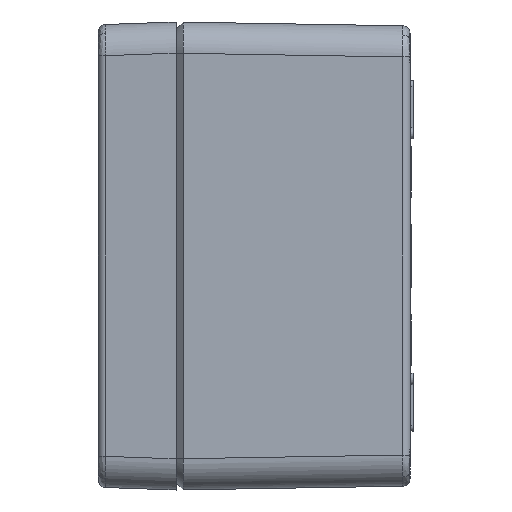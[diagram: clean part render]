
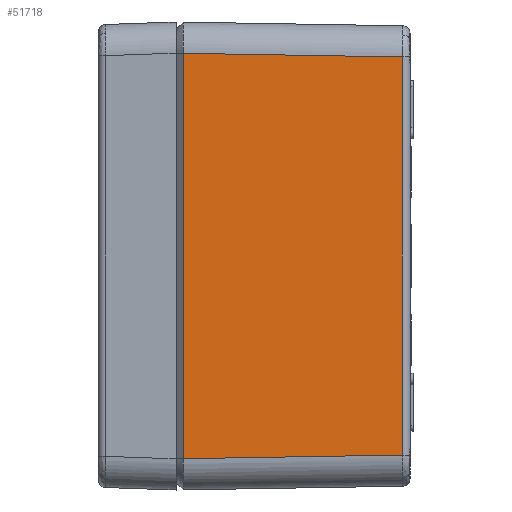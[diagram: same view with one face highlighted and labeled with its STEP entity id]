
A CAD part, left-side view. The second image highlights one B-rep face of the part: STEP entity #51718.
In plain terms, the highlighted planar face has unit normal (-1, -0.017, 0).
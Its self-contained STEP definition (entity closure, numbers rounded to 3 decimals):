
#2664 = VECTOR ( 'NONE', #43241, 1000. ) ;
#5286 = LINE ( 'NONE', #105036, #38894 ) ;
#8891 = CARTESIAN_POINT ( 'NONE',  ( -179.033, -58.033, -51.034 ) ) ;
#9916 = DIRECTION ( 'NONE',  ( -0.017, 1., 0.017 ) ) ;
#12047 = VERTEX_POINT ( 'NONE', #30959 ) ;
#12494 = ORIENTED_EDGE ( 'NONE', *, *, #80364, .T. ) ;
#18532 = CARTESIAN_POINT ( 'NONE',  ( -179.969, -1.866, 51.97 ) ) ;
#20187 = ORIENTED_EDGE ( 'NONE', *, *, #111000, .T. ) ;
#28161 = LINE ( 'NONE', #18532, #111145 ) ;
#30959 = CARTESIAN_POINT ( 'NONE',  ( -179.97, -1.8, 51.971 ) ) ;
#34890 = PLANE ( 'NONE',  #40509 ) ;
#36302 = CARTESIAN_POINT ( 'NONE',  ( -179.033, -58.033, 51.034 ) ) ;
#38894 = VECTOR ( 'NONE', #96417, 1000. ) ;
#39981 = ORIENTED_EDGE ( 'NONE', *, *, #107093, .T. ) ;
#40074 = FACE_OUTER_BOUND ( 'NONE', #111019, .T. ) ;
#40089 = EDGE_CURVE ( 'NONE', #81549, #12047, #28161, .T. ) ;
#40509 = AXIS2_PLACEMENT_3D ( 'NONE', #54310, #62919, #55040 ) ;
#42868 = CARTESIAN_POINT ( 'NONE',  ( -180.002, 0.133, -52.003 ) ) ;
#43241 = DIRECTION ( 'NONE',  ( 0., 0., 1. ) ) ;
#51718 = ADVANCED_FACE ( 'NONE', ( #40074 ), #34890, .T. ) ;
#54310 = CARTESIAN_POINT ( 'NONE',  ( -180., 0., -60. ) ) ;
#55040 = DIRECTION ( 'NONE',  ( -0.017, 1., 0. ) ) ;
#56031 = ORIENTED_EDGE ( 'NONE', *, *, #40089, .T. ) ;
#62919 = DIRECTION ( 'NONE',  ( -1., -0.017, 0. ) ) ;
#62973 = LINE ( 'NONE', #84011, #2664 ) ;
#66404 = VERTEX_POINT ( 'NONE', #8891 ) ;
#77825 = VECTOR ( 'NONE', #95186, 1000. ) ;
#80364 = EDGE_CURVE ( 'NONE', #66404, #81549, #62973, .T. ) ;
#81549 = VERTEX_POINT ( 'NONE', #36302 ) ;
#84011 = CARTESIAN_POINT ( 'NONE',  ( -179.033, -58.033, 51.001 ) ) ;
#89858 = LINE ( 'NONE', #42868, #77825 ) ;
#95186 = DIRECTION ( 'NONE',  ( 0.017, -1., 0.017 ) ) ;
#96226 = VERTEX_POINT ( 'NONE', #97755 ) ;
#96417 = DIRECTION ( 'NONE',  ( 0., 0., -1. ) ) ;
#97755 = CARTESIAN_POINT ( 'NONE',  ( -179.97, -1.8, -51.971 ) ) ;
#105036 = CARTESIAN_POINT ( 'NONE',  ( -179.97, -1.8, -60. ) ) ;
#107093 = EDGE_CURVE ( 'NONE', #96226, #66404, #89858, .T. ) ;
#111000 = EDGE_CURVE ( 'NONE', #12047, #96226, #5286, .T. ) ;
#111019 = EDGE_LOOP ( 'NONE', ( #39981, #12494, #56031, #20187 ) ) ;
#111145 = VECTOR ( 'NONE', #9916, 1000. ) ;
